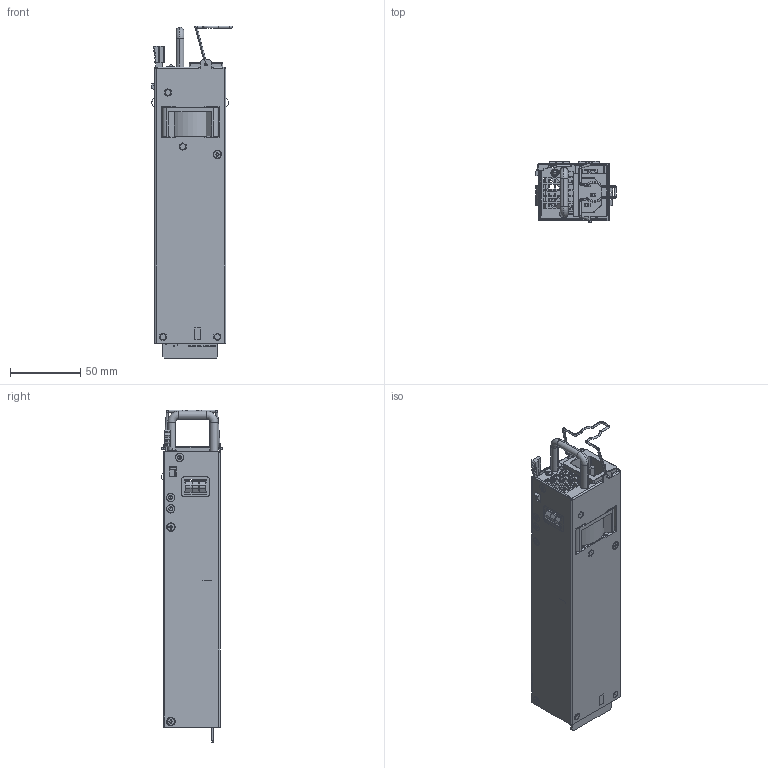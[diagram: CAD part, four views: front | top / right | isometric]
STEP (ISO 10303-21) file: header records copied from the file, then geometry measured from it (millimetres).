
FILE_DESCRIPTION((''),'2;1');
FILE_NAME('0TOP_RG-PA150I-F_ASM','2022-08-18T17:30:04',('pd070'),(''),'CREO PARAMETRIC BY PTC INC, 2017260','CREO PARAMETRIC BY PTC INC, 2017260','');
FILE_SCHEMA(('CONFIG_CONTROL_DESIGN','SHAPE_APPEARANCE_LAYERS_GROUPS'));
Products named in the file (1): 0TOP_RG-PA150I-F_ASM
Bounding box: 57.2 x 43.99 x 235.65 mm (x, y, z)
Surface area: 168287.9 mm2 (no closed solid volume)
Topology: 0 solids, 283 shells, 2100 faces, 8151 edges, 6258 vertices
Faces by surface type: plane 1562, cylinder 434, torus 46, cone 44, sphere 8, bspline 6
Entity records: 95932 total; most frequent: CARTESIAN_POINT 17166, DIRECTION 15287, ORIENTED_EDGE 12078, EDGE_CURVE 8135, VERTEX_POINT 6258, AXIS2_PLACEMENT_3D 5111, VECTOR 5065, LINE 5065
